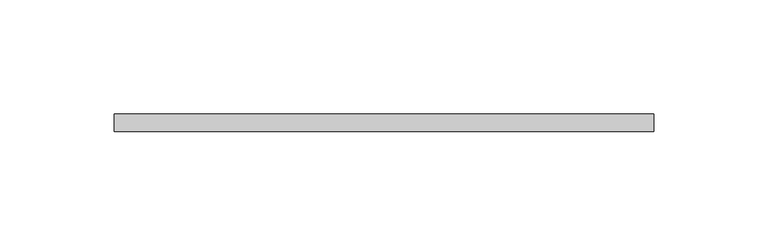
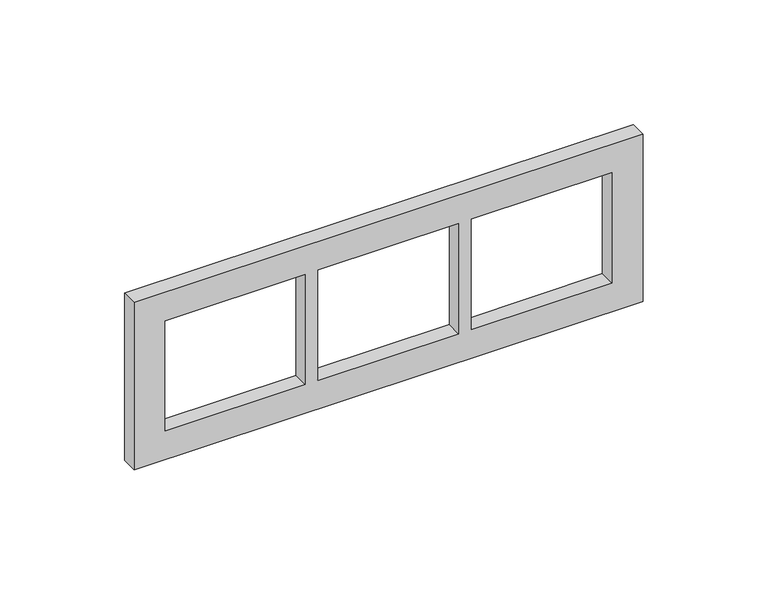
"""IFC4 building model written with IfcOpenShell, lengths in millimetres: proxy geometry, Iris_Plus_AluminioMercurio : Marco 3 elementos."""

from ifc_helpers import new_model, si_unit, frame, origin, place, context, project, spatial, polyline, outline, extrude, source, transform, mapped, element, save


def electrical_fixtures_d58893ed(model_context):
    return source(origin(), model_context, "Body", "SweptSolid", [
        extrude(outline(polyline([(1041.0, -63.8), (959.0, -63.8), (959.0, 171.8), (1041.0, 171.8), (1041.0, -63.8)]), holes=[polyline([(1027.0, 157.5), (973.0, 157.5), (973.0, 92.5), (1027.0, 92.5), (1027.0, 157.5)]), polyline([(1027.0, 86.5), (973.0, 86.5), (973.0, 21.5), (1027.0, 21.5), (1027.0, 86.5)]), polyline([(1027.0, 15.5), (973.0, 15.5), (973.0, -49.5), (1027.0, -49.5), (1027.0, 15.5)])]), frame((0.0, 100.0, 0.0), z_axis=(0.0, 1.0, 0.0), x_axis=(0.0, 0.0, 1.0)), (0.0, 0.0, 1.0), 7.5),
    ])


if __name__ == "__main__":
    model = new_model("IFC4")
    model_context = context("Model", 3, world=origin())
    ifc_project = project(units=[si_unit("LENGTHUNIT", "METRE", prefix="MILLI")], contexts=[model_context])
    site = spatial("IfcSite", under=ifc_project)
    building = spatial("IfcBuilding", under=site)
    placement = place(None, origin())
    electrical_fixtures_shape = electrical_fixtures_d58893ed(model_context)
    element("IfcBuildingElementProxy", 1, Name="Iris_Plus_AluminioMercurio : Marco 3 elementos", ObjectType="Iris_Plus_AluminioMercurio : Marco 3 elementos", at=placement, inside=building, context=model_context, shape_type="MappedRepresentation", body=[
        mapped(electrical_fixtures_shape, transform((0.0, 0.0, 0.0), x_axis=(1.0, 0.0, 0.0), y_axis=(0.0, 1.0, 0.0), z_axis=(0.0, 0.0, 1.0))),
    ])
    save(model, "model.ifc")
